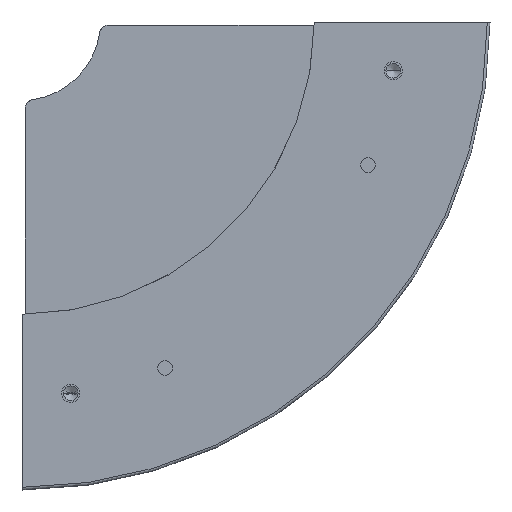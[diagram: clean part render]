
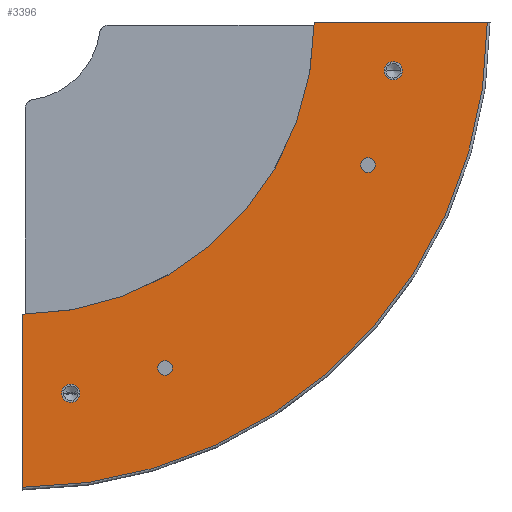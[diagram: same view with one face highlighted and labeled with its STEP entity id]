
A CAD part, front view. The second image highlights one B-rep face of the part: STEP entity #3396.
In plain terms, the highlighted planar face has unit normal (0, -1, 0).
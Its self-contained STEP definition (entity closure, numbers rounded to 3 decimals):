
#211=CARTESIAN_POINT('',(0.,-30.573,0.));
#212=DIRECTION('',(0.,1.,0.));
#213=DIRECTION('',(1.,0.,-0.001));
#214=AXIS2_PLACEMENT_3D('',#211,#212,#213);
#246=DIRECTION('',(0.,0.,1.));
#247=VECTOR('',#246,94.65);
#248=CARTESIAN_POINT('',(0.12,-30.573,-254.65));
#249=LINE('',#248,#247);
#250=DIRECTION('',(-1.,0.,0.));
#251=VECTOR('',#250,94.65);
#252=CARTESIAN_POINT('',(254.65,-30.573,-0.12));
#253=LINE('',#252,#251);
#254=CARTESIAN_POINT('',(0.,-30.573,0.));
#255=DIRECTION('',(0.,1.,0.));
#256=DIRECTION('',(1.,0.,0.));
#257=AXIS2_PLACEMENT_3D('',#254,#255,#256);
#259=CARTESIAN_POINT('',(203.246,-30.573,-26.758));
#260=DIRECTION('',(0.,-1.,0.));
#261=DIRECTION('',(-1.,0.,0.));
#262=AXIS2_PLACEMENT_3D('',#259,#260,#261);
#264=CARTESIAN_POINT('',(203.246,-30.573,-26.758));
#265=DIRECTION('',(0.,-1.,0.));
#266=DIRECTION('',(1.,0.,0.));
#267=AXIS2_PLACEMENT_3D('',#264,#265,#266);
#269=CARTESIAN_POINT('',(26.758,-30.573,-203.246));
#270=DIRECTION('',(0.,-1.,0.));
#271=DIRECTION('',(-1.,0.,0.));
#272=AXIS2_PLACEMENT_3D('',#269,#270,#271);
#274=CARTESIAN_POINT('',(26.758,-30.573,-203.246));
#275=DIRECTION('',(0.,-1.,0.));
#276=DIRECTION('',(1.,0.,0.));
#277=AXIS2_PLACEMENT_3D('',#274,#275,#276);
#279=CARTESIAN_POINT('',(78.45,-30.573,-189.395));
#280=DIRECTION('',(0.,1.,0.));
#281=DIRECTION('',(-1.,0.,0.));
#282=AXIS2_PLACEMENT_3D('',#279,#280,#281);
#284=CARTESIAN_POINT('',(78.45,-30.573,-189.395));
#285=DIRECTION('',(0.,1.,0.));
#286=DIRECTION('',(1.,0.,0.));
#287=AXIS2_PLACEMENT_3D('',#284,#285,#286);
#289=CARTESIAN_POINT('',(189.395,-30.573,-78.45));
#290=DIRECTION('',(0.,1.,0.));
#291=DIRECTION('',(-1.,0.,0.));
#292=AXIS2_PLACEMENT_3D('',#289,#290,#291);
#294=CARTESIAN_POINT('',(189.395,-30.573,-78.45));
#295=DIRECTION('',(0.,1.,0.));
#296=DIRECTION('',(1.,0.,0.));
#297=AXIS2_PLACEMENT_3D('',#294,#295,#296);
#2548=CARTESIAN_POINT('',(254.65,-30.573,-0.12));
#2549=CARTESIAN_POINT('',(160.,-30.573,-0.12));
#2550=VERTEX_POINT('',#2548);
#2551=VERTEX_POINT('',#2549);
#2578=CARTESIAN_POINT('',(0.12,-30.573,-254.65));
#2579=CARTESIAN_POINT('',(0.12,-30.573,-160.));
#2580=VERTEX_POINT('',#2578);
#2581=VERTEX_POINT('',#2579);
#2654=CARTESIAN_POINT('',(198.246,-30.573,-26.758));
#2655=VERTEX_POINT('',#2654);
#2656=CARTESIAN_POINT('',(208.246,-30.573,-26.758));
#2657=VERTEX_POINT('',#2656);
#2672=CARTESIAN_POINT('',(21.758,-30.573,-203.246));
#2673=VERTEX_POINT('',#2672);
#2674=CARTESIAN_POINT('',(31.758,-30.573,-203.246));
#2675=VERTEX_POINT('',#2674);
#2680=CARTESIAN_POINT('',(82.45,-30.573,-189.395));
#2681=VERTEX_POINT('',#2680);
#2682=CARTESIAN_POINT('',(74.45,-30.573,-189.395));
#2683=VERTEX_POINT('',#2682);
#2688=CARTESIAN_POINT('',(193.395,-30.573,-78.45));
#2689=VERTEX_POINT('',#2688);
#2690=CARTESIAN_POINT('',(185.395,-30.573,-78.45));
#2691=VERTEX_POINT('',#2690);
#3359=CARTESIAN_POINT('',(0.,-30.573,0.));
#3360=DIRECTION('',(0.,1.,0.));
#3361=DIRECTION('',(-1.,0.,0.));
#3362=AXIS2_PLACEMENT_3D('',#3359,#3360,#3361);
#3363=PLANE('',#3362);
#3364=ORIENTED_EDGE('',*,*,#3332,.T.);
#3365=ORIENTED_EDGE('',*,*,#3289,.F.);
#3367=ORIENTED_EDGE('',*,*,#3366,.F.);
#3369=ORIENTED_EDGE('',*,*,#3368,.T.);
#3370=EDGE_LOOP('',(#3364,#3365,#3367,#3369));
#3371=FACE_OUTER_BOUND('',#3370,.F.);
#3373=ORIENTED_EDGE('',*,*,#3372,.T.);
#3375=ORIENTED_EDGE('',*,*,#3374,.T.);
#3376=EDGE_LOOP('',(#3373,#3375));
#3377=FACE_BOUND('',#3376,.F.);
#3379=ORIENTED_EDGE('',*,*,#3378,.T.);
#3381=ORIENTED_EDGE('',*,*,#3380,.T.);
#3382=EDGE_LOOP('',(#3379,#3381));
#3383=FACE_BOUND('',#3382,.F.);
#3385=ORIENTED_EDGE('',*,*,#3384,.F.);
#3387=ORIENTED_EDGE('',*,*,#3386,.F.);
#3388=EDGE_LOOP('',(#3385,#3387));
#3389=FACE_BOUND('',#3388,.F.);
#3391=ORIENTED_EDGE('',*,*,#3390,.F.);
#3393=ORIENTED_EDGE('',*,*,#3392,.F.);
#3394=EDGE_LOOP('',(#3391,#3393));
#3395=FACE_BOUND('',#3394,.F.);
#3396=ADVANCED_FACE('',(#3371,#3377,#3383,#3389,#3395),#3363,.F.);
#215=CIRCLE('',#214,160.);
#258=CIRCLE('',#257,254.65);
#263=CIRCLE('',#262,5.);
#268=CIRCLE('',#267,5.);
#273=CIRCLE('',#272,5.);
#278=CIRCLE('',#277,5.);
#283=CIRCLE('',#282,4.);
#288=CIRCLE('',#287,4.);
#293=CIRCLE('',#292,4.);
#298=CIRCLE('',#297,4.);
#3289=EDGE_CURVE('',#2551,#2581,#215,.T.);
#3332=EDGE_CURVE('',#2580,#2581,#249,.T.);
#3366=EDGE_CURVE('',#2550,#2551,#253,.T.);
#3368=EDGE_CURVE('',#2550,#2580,#258,.T.);
#3372=EDGE_CURVE('',#2655,#2657,#263,.T.);
#3374=EDGE_CURVE('',#2657,#2655,#268,.T.);
#3378=EDGE_CURVE('',#2673,#2675,#273,.T.);
#3380=EDGE_CURVE('',#2675,#2673,#278,.T.);
#3384=EDGE_CURVE('',#2683,#2681,#283,.T.);
#3386=EDGE_CURVE('',#2681,#2683,#288,.T.);
#3390=EDGE_CURVE('',#2691,#2689,#293,.T.);
#3392=EDGE_CURVE('',#2689,#2691,#298,.T.);
